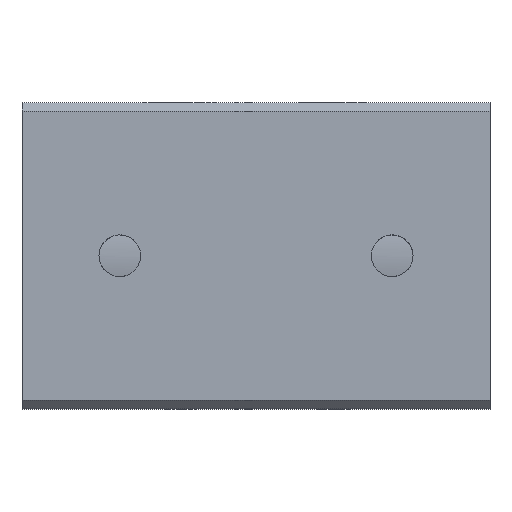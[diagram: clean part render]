
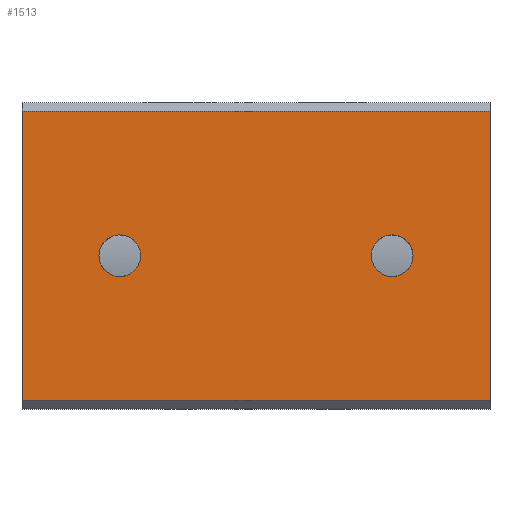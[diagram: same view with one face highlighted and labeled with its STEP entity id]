
A CAD part, top view. The second image highlights one B-rep face of the part: STEP entity #1513.
In plain terms, the highlighted planar face has unit normal (0, 0, 1).
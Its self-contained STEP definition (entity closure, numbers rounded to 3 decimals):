
#1361=CARTESIAN_POINT('',(55.0,-17.,24.));
#1362=VERTEX_POINT('',#1361);
#1369=CARTESIAN_POINT('',(0.0,-17.,24.));
#1370=VERTEX_POINT('',#1369);
#1371=CARTESIAN_POINT('',(55.0,-17.,24.));
#1372=DIRECTION('',(-1.0,0.0,0.0));
#1373=VECTOR('',#1372,55.0);
#1374=LINE('',#1371,#1373);
#1375=EDGE_CURVE('',#1362,#1370,#1374,.T.);
#1400=CARTESIAN_POINT('',(0.0,17.,24.));
#1401=VERTEX_POINT('',#1400);
#1402=CARTESIAN_POINT('',(0.0,-17.,24.));
#1403=DIRECTION('',(0.0,1.0,0.0));
#1404=VECTOR('',#1403,34.);
#1405=LINE('',#1402,#1404);
#1406=EDGE_CURVE('',#1370,#1401,#1405,.T.);
#1468=CARTESIAN_POINT('',(0.0,-18.,24.));
#1469=DIRECTION('',(0.0,0.0,1.0));
#1470=DIRECTION('',(1.0,0.0,0.0));
#1471=AXIS2_PLACEMENT_3D('',#1468,#1469,#1470);
#1472=PLANE('',#1471);
#1473=ORIENTED_EDGE('',*,*,#1375,.F.);
#1474=CARTESIAN_POINT('',(55.0,17.,24.));
#1475=VERTEX_POINT('',#1474);
#1476=CARTESIAN_POINT('',(55.0,-17.,24.));
#1477=DIRECTION('',(0.0,1.0,0.0));
#1478=VECTOR('',#1477,34.);
#1479=LINE('',#1476,#1478);
#1480=EDGE_CURVE('',#1362,#1475,#1479,.T.);
#1481=ORIENTED_EDGE('',*,*,#1480,.T.);
#1482=CARTESIAN_POINT('',(0.0,17.,24.));
#1483=DIRECTION('',(1.0,0.0,0.0));
#1484=VECTOR('',#1483,55.0);
#1485=LINE('',#1482,#1484);
#1486=EDGE_CURVE('',#1401,#1475,#1485,.T.);
#1487=ORIENTED_EDGE('',*,*,#1486,.F.);
#1488=ORIENTED_EDGE('',*,*,#1406,.F.);
#1489=EDGE_LOOP('',(#1473,#1481,#1487,#1488));
#1490=FACE_OUTER_BOUND('',#1489,.T.);
#1491=CARTESIAN_POINT('',(13.958,0.0,24.));
#1492=VERTEX_POINT('',#1491);
#1493=CARTESIAN_POINT('',(11.5,0.0,24.));
#1494=DIRECTION('',(0.0,0.0,-1.0));
#1495=DIRECTION('',(1.0,0.0,0.0));
#1496=AXIS2_PLACEMENT_3D('',#1493,#1494,#1495);
#1497=CIRCLE('',#1496,2.459);
#1498=EDGE_CURVE('',#1492,#1492,#1497,.T.);
#1499=ORIENTED_EDGE('',*,*,#1498,.T.);
#1500=EDGE_LOOP('',(#1499));
#1501=FACE_BOUND('',#1500,.T.);
#1502=CARTESIAN_POINT('',(45.958,0.,24.));
#1503=VERTEX_POINT('',#1502);
#1504=CARTESIAN_POINT('',(43.5,0.,24.));
#1505=DIRECTION('',(0.0,0.0,-1.0));
#1506=DIRECTION('',(1.0,0.0,0.0));
#1507=AXIS2_PLACEMENT_3D('',#1504,#1505,#1506);
#1508=CIRCLE('',#1507,2.459);
#1509=EDGE_CURVE('',#1503,#1503,#1508,.T.);
#1510=ORIENTED_EDGE('',*,*,#1509,.T.);
#1511=EDGE_LOOP('',(#1510));
#1512=FACE_BOUND('',#1511,.T.);
#1513=ADVANCED_FACE('',(#1490,#1501,#1512),#1472,.T.);
